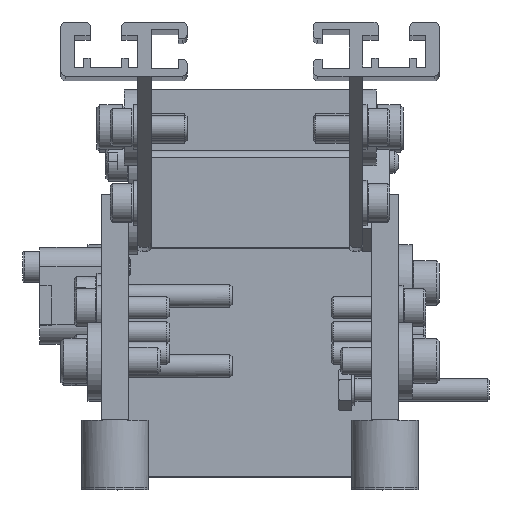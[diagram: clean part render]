
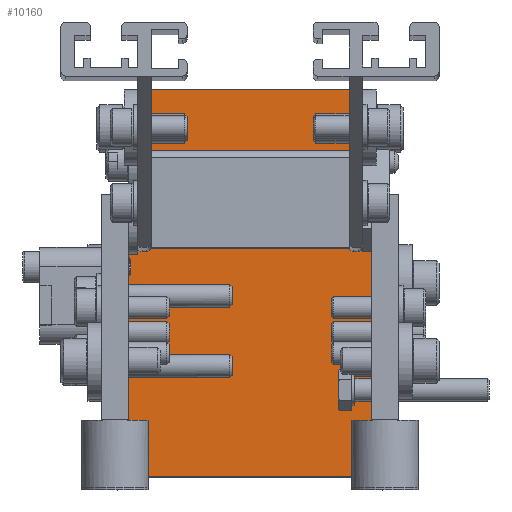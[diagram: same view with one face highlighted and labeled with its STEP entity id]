
A CAD part, top view. The second image highlights one B-rep face of the part: STEP entity #10160.
In plain terms, the highlighted planar face has unit normal (0, 0, 1).
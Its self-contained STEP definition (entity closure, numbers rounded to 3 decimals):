
#349=LINE('',#15973,#1137);
#350=LINE('',#15975,#1138);
#351=LINE('',#15977,#1139);
#352=LINE('',#15979,#1140);
#353=LINE('',#15981,#1141);
#354=LINE('',#15983,#1142);
#355=LINE('',#15984,#1143);
#356=LINE('',#15986,#1144);
#1137=VECTOR('',#12615,1000.);
#1138=VECTOR('',#12616,1000.);
#1139=VECTOR('',#12617,1000.);
#1140=VECTOR('',#12618,1000.);
#1141=VECTOR('',#12619,1000.);
#1142=VECTOR('',#12620,1000.);
#1143=VECTOR('',#12621,1000.);
#1144=VECTOR('',#12622,1000.);
#1778=PLANE('',#10999);
#2642=ORIENTED_EDGE('',*,*,#5337,.T.);
#2643=ORIENTED_EDGE('',*,*,#5338,.T.);
#2644=ORIENTED_EDGE('',*,*,#5339,.T.);
#2645=ORIENTED_EDGE('',*,*,#5340,.F.);
#2646=ORIENTED_EDGE('',*,*,#5341,.F.);
#2647=ORIENTED_EDGE('',*,*,#5342,.F.);
#2648=ORIENTED_EDGE('',*,*,#5343,.F.);
#2649=ORIENTED_EDGE('',*,*,#5344,.T.);
#5337=EDGE_CURVE('',#6670,#6523,#349,.T.);
#5338=EDGE_CURVE('',#6523,#6671,#350,.T.);
#5339=EDGE_CURVE('',#6671,#6672,#351,.T.);
#5340=EDGE_CURVE('',#6673,#6672,#352,.T.);
#5341=EDGE_CURVE('',#6674,#6673,#353,.T.);
#5342=EDGE_CURVE('',#6401,#6674,#354,.T.);
#5343=EDGE_CURVE('',#6675,#6401,#355,.T.);
#5344=EDGE_CURVE('',#6675,#6670,#356,.T.);
#6401=VERTEX_POINT('',#15231);
#6523=VERTEX_POINT('',#15555);
#6670=VERTEX_POINT('',#15974);
#6671=VERTEX_POINT('',#15976);
#6672=VERTEX_POINT('',#15978);
#6673=VERTEX_POINT('',#15980);
#6674=VERTEX_POINT('',#15982);
#6675=VERTEX_POINT('',#15985);
#7985=EDGE_LOOP('',(#2642,#2643,#2644,#2645,#2646,#2647,#2648,#2649));
#9001=FACE_BOUND('',#7985,.T.);
#10160=ADVANCED_FACE('',(#9001),#1778,.F.);
#10999=AXIS2_PLACEMENT_3D('',#15972,#12613,#12614);
#12613=DIRECTION('',(0.,0.,-1.));
#12614=DIRECTION('',(0.,-1.,0.));
#12615=DIRECTION('',(0.,-1.,0.));
#12616=DIRECTION('',(0.,-1.,0.));
#12617=DIRECTION('',(0.,-1.,0.));
#12618=DIRECTION('',(-1.,0.,0.));
#12619=DIRECTION('',(0.,-1.,0.));
#12620=DIRECTION('',(0.,-1.,0.));
#12621=DIRECTION('',(0.,-1.,0.));
#12622=DIRECTION('',(-1.,0.,0.));
#15231=CARTESIAN_POINT('',(27.,-38.,-155.));
#15555=CARTESIAN_POINT('',(-27.,-38.,-155.));
#15972=CARTESIAN_POINT('',(27.,-100.,-155.));
#15973=CARTESIAN_POINT('',(-27.,-100.,-155.));
#15974=CARTESIAN_POINT('',(-27.,-14.,-155.));
#15975=CARTESIAN_POINT('',(-27.,-100.,-155.));
#15976=CARTESIAN_POINT('',(-27.,-88.,-155.));
#15977=CARTESIAN_POINT('',(-27.,-100.,-155.));
#15978=CARTESIAN_POINT('',(-27.,-100.,-155.));
#15979=CARTESIAN_POINT('',(27.,-100.,-155.));
#15980=CARTESIAN_POINT('',(27.,-100.,-155.));
#15981=CARTESIAN_POINT('',(27.,-38.,-155.));
#15982=CARTESIAN_POINT('',(27.,-88.,-155.));
#15983=CARTESIAN_POINT('',(27.,-100.,-155.));
#15984=CARTESIAN_POINT('',(27.,-38.,-155.));
#15985=CARTESIAN_POINT('',(27.,-14.,-155.));
#15986=CARTESIAN_POINT('',(27.,-14.,-155.));
